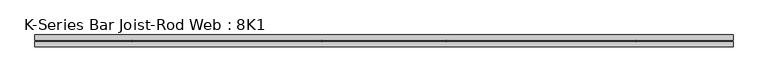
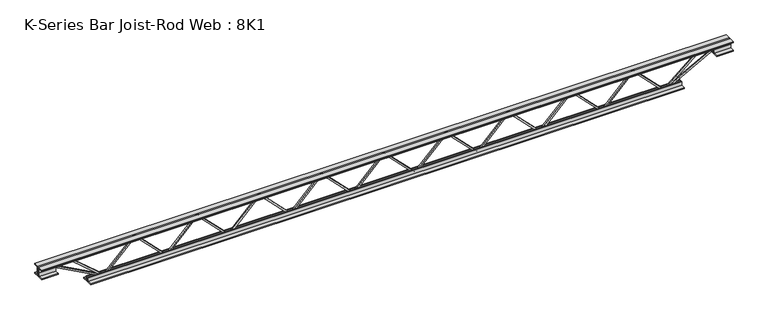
"""IFC4 building model written with IfcOpenShell, lengths in millimetres: beam geometry, K-Series Bar Joist-Rod Web : 8K1."""

from ifc_helpers import new_model, si_unit, frame, origin, place, context, project, spatial, polyline, outline, extrude, source, transform, mapped, element, save


def k_series_bar_joist_rod_web_8k1_facdae25(model_context):
    return source(origin(), model_context, "Body", "SweptSolid", [
        extrude(outline(polyline([(-90.4875, 968.3504289), (-100.0125, 968.3504289), (-100.0125, 973.521642), (90.4875, 1160.8417278), (90.4875, 1163.1993017), (-100.0125, 1350.5193875), (-100.0125, 1355.6906005), (-90.4875, 1355.6906005), (-90.4875, 1354.5118136), (100.0125, 1167.1917278), (100.0125, 1156.8493017), (-90.4875, 969.5292159), (-90.4875, 968.3504289)])), frame((0.0, -4.7625, 0.0), z_axis=(0.0, 1.0, 0.0), x_axis=(0.0, 0.0, 1.0)), (0.0, 0.0, 1.0), 9.525),
        extrude(outline(polyline([(-90.4875, 581.0102574), (-100.0125, 581.0102574), (-100.0125, 586.1814704), (90.4875, 773.5015562), (90.4875, 775.8591301), (-100.0125, 963.1792159), (-100.0125, 968.3504289), (-90.4875, 968.3504289), (-90.4875, 967.171642), (100.0125, 779.8515562), (100.0125, 769.5091301), (-90.4875, 582.1890443), (-90.4875, 581.0102574)])), frame((0.0, -4.7625, 0.0), z_axis=(0.0, 1.0, 0.0), x_axis=(0.0, 0.0, 1.0)), (0.0, 0.0, 1.0), 9.525),
        extrude(outline(polyline([(-90.4875, 193.6700858), (-100.0125, 193.6700858), (-100.0125, 198.8412988), (90.4875, 386.1613846), (90.4875, 388.5189586), (-100.0125, 575.8390443), (-100.0125, 581.0102574), (-90.4875, 581.0102574), (-90.4875, 579.8314704), (100.0125, 392.5113846), (100.0125, 382.1689586), (-90.4875, 194.8488728), (-90.4875, 193.6700858)])), frame((0.0, -4.7625, 0.0), z_axis=(0.0, 1.0, 0.0), x_axis=(0.0, 0.0, 1.0)), (0.0, 0.0, 1.0), 9.525),
        extrude(outline(polyline([(-90.4875, -193.6700858), (-100.0125, -193.6700858), (-100.0125, -188.4988728), (90.4875, -1.178787), (90.4875, 1.178787), (-100.0125, 188.4988728), (-100.0125, 193.6700858), (-90.4875, 193.6700858), (-90.4875, 192.4912988), (100.0125, 5.171213), (100.0125, -5.171213), (-90.4875, -192.4912988), (-90.4875, -193.6700858)])), frame((0.0, -4.7625, 0.0), z_axis=(0.0, 1.0, 0.0), x_axis=(0.0, 0.0, 1.0)), (0.0, 0.0, 1.0), 9.525),
        extrude(outline(polyline([(-90.4875, -581.0102574), (-100.0125, -581.0102574), (-100.0125, -575.8390443), (90.4875, -388.5189586), (90.4875, -386.1613846), (-100.0125, -198.8412988), (-100.0125, -193.6700858), (-90.4875, -193.6700858), (-90.4875, -194.8488728), (100.0125, -382.1689586), (100.0125, -392.5113846), (-90.4875, -579.8314704), (-90.4875, -581.0102574)])), frame((0.0, -4.7625, 0.0), z_axis=(0.0, 1.0, 0.0), x_axis=(0.0, 0.0, 1.0)), (0.0, 0.0, 1.0), 9.525),
        extrude(outline(polyline([(-90.4875, -968.3504289), (-100.0125, -968.3504289), (-100.0125, -963.1792159), (90.4875, -775.8591301), (90.4875, -773.5015562), (-100.0125, -586.1814704), (-100.0125, -581.0102574), (-90.4875, -581.0102574), (-90.4875, -582.1890443), (100.0125, -769.5091301), (100.0125, -779.8515562), (-90.4875, -967.171642), (-90.4875, -968.3504289)])), frame((0.0, -4.7625, 0.0), z_axis=(0.0, 1.0, 0.0), x_axis=(0.0, 0.0, 1.0)), (0.0, 0.0, 1.0), 9.525),
        extrude(outline(polyline([(-90.4875, -1355.6906005), (-100.0125, -1355.6906005), (-100.0125, -1350.5193875), (90.4875, -1163.1993017), (90.4875, -1160.8417278), (-100.0125, -973.521642), (-100.0125, -968.3504289), (-90.4875, -968.3504289), (-90.4875, -969.5292159), (100.0125, -1156.8493017), (100.0125, -1167.1917278), (-90.4875, -1354.5118136), (-90.4875, -1355.6906005)])), frame((0.0, -4.7625, 0.0), z_axis=(0.0, 1.0, 0.0), x_axis=(0.0, 0.0, 1.0)), (0.0, 0.0, 1.0), 9.525),
        extrude(outline(polyline([(-90.4875, 1355.6906005), (-100.0125, 1355.6906005), (-100.0125, 1360.8618136), (90.4875, 1548.1818993), (90.4875, 1550.5394733), (-100.0125, 1737.8595591), (-100.0125, 1743.0307721), (-90.4875, 1743.0307721), (-90.4875, 1741.8519851), (100.0125, 1554.5318993), (100.0125, 1544.1894733), (-90.4875, 1356.8693875), (-90.4875, 1355.6906005)])), frame((0.0, -4.7625, 0.0), z_axis=(0.0, 1.0, 0.0), x_axis=(0.0, 0.0, 1.0)), (0.0, 0.0, 1.0), 9.525),
        extrude(outline(polyline([(-90.4875, -1743.0307721), (-100.0125, -1743.0307721), (-100.0125, -1737.8595591), (90.4875, -1550.5394733), (90.4875, -1548.1818993), (-100.0125, -1360.8618136), (-100.0125, -1355.6906005), (-90.4875, -1355.6906005), (-90.4875, -1356.8693875), (100.0125, -1544.1894733), (100.0125, -1554.5318993), (-90.4875, -1741.8519851), (-90.4875, -1743.0307721)])), frame((0.0, -4.7625, 0.0), z_axis=(0.0, 1.0, 0.0), x_axis=(0.0, 0.0, 1.0)), (0.0, 0.0, 1.0), 9.525),
        extrude(outline(polyline([(4.7625, 101.6), (36.5125, 101.6), (36.5125, 95.25), (11.1125, 95.25), (11.1125, 69.85), (4.7625, 69.85), (4.7625, 101.6)])), frame((-2149.4307721, 0.0, 0.0), z_axis=(1.0, 0.0, 0.0), x_axis=(0.0, 1.0, 0.0)), (0.0, 0.0, 1.0), 4298.8615442),
        extrude(outline(polyline([(-4.7625, 101.6), (-4.7625, 69.85), (-11.1125, 69.85), (-11.1125, 95.25), (-36.5125, 95.25), (-36.5125, 101.6), (-4.7625, 101.6)])), frame((-2149.4307721, 0.0, 0.0), z_axis=(1.0, 0.0, 0.0), x_axis=(0.0, 1.0, 0.0)), (0.0, 0.0, 1.0), 4298.8615442),
        extrude(outline(polyline([(-4.7625, 38.1), (-36.5125, 38.1), (-36.5125, 44.45), (-11.1125, 44.45), (-11.1125, 69.85), (-4.7625, 69.85), (-4.7625, 38.1)])), frame((-2149.4307721, 0.0, 0.0), z_axis=(1.0, 0.0, 0.0), x_axis=(0.0, 1.0, 0.0)), (0.0, 0.0, 1.0), 101.6),
        extrude(outline(polyline([(36.5125, 38.1), (4.7625, 38.1), (4.7625, 69.85), (11.1125, 69.85), (11.1125, 44.45), (36.5125, 44.45), (36.5125, 38.1)])), frame((-2149.4307721, 0.0, 0.0), z_axis=(1.0, 0.0, 0.0), x_axis=(0.0, 1.0, 0.0)), (0.0, 0.0, 1.0), 101.6),
        extrude(outline(polyline([(4.7625, 38.1), (4.7625, 69.85), (11.1125, 69.85), (11.1125, 44.45), (36.5125, 44.45), (36.5125, 38.1), (4.7625, 38.1)])), frame((2047.8307721, 0.0, 0.0), z_axis=(1.0, 0.0, 0.0), x_axis=(0.0, 1.0, 0.0)), (0.0, 0.0, 1.0), 101.6),
        extrude(outline(polyline([(-4.7625, 38.1), (-36.5125, 38.1), (-36.5125, 44.45), (-11.1125, 44.45), (-11.1125, 69.85), (-4.7625, 69.85), (-4.7625, 38.1)])), frame((2047.8307721, 0.0, 0.0), z_axis=(1.0, 0.0, 0.0), x_axis=(0.0, 1.0, 0.0)), (0.0, 0.0, 1.0), 101.6),
        extrude(outline(polyline([(4.7625, -101.6), (4.7625, -69.85), (11.1125, -69.85), (11.1125, -95.25), (36.5125, -95.25), (36.5125, -101.6), (4.7625, -101.6)])), frame((-1844.6307721, 0.0, 0.0), z_axis=(1.0, 0.0, 0.0), x_axis=(0.0, 1.0, 0.0)), (0.0, 0.0, 1.0), 3689.2615442),
        extrude(outline(polyline([(-4.7625, -101.6), (-36.5125, -101.6), (-36.5125, -95.25), (-11.1125, -95.25), (-11.1125, -69.85), (-4.7625, -69.85), (-4.7625, -101.6)])), frame((-1844.6307721, 0.0, 0.0), z_axis=(1.0, 0.0, 0.0), x_axis=(0.0, 1.0, 0.0)), (0.0, 0.0, 1.0), 3689.2615442),
        extrude(outline(polyline([(0.0, -9.525), (0.0, 0.0), (346.6425392, 0.0), (346.6425392, -9.525), (0.0, -9.525)])), frame((-2050.0990706, 4.7625, 65.662372), z_axis=(0.47628314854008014, 0.0, 0.8792919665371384), x_axis=(0.8792919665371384, 0.0, -0.47628314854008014)), (0.0, 0.0, 1.0), 9.525),
        extrude(outline(polyline([(0.0, -9.525), (0.0, 0.0), (254.4918705, 0.0), (254.4918705, -9.525), (0.0, -9.525)])), frame((-1939.7904998, 4.7625, 66.2257043), z_axis=(0.6487437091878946, 0.0, 0.7610069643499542), x_axis=(0.7610069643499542, 0.0, -0.6487437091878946)), (0.0, 0.0, 1.0), 9.525),
        extrude(outline(polyline([(0.0, -9.525), (0.0, 0.0), (346.6425392, 0.0), (346.6425392, -9.525), (0.0, -9.525)])), frame((2050.0990706, -4.7625, 65.662372), z_axis=(-0.476283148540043, 0.0, 0.8792919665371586), x_axis=(-0.8792919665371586, 0.0, -0.476283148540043)), (0.0, 0.0, 1.0), 9.525),
        extrude(outline(polyline([(0.0, -9.525), (0.0, 0.0), (254.4918705, 0.0), (254.4918705, -9.525), (0.0, -9.525)])), frame((1939.7904998, -4.7625, 66.2257043), z_axis=(-0.6487437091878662, 0.0, 0.7610069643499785), x_axis=(-0.7610069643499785, 0.0, -0.6487437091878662)), (0.0, 0.0, 1.0), 9.525),
    ])


if __name__ == "__main__":
    model = new_model("IFC4")
    model_context = context("Model", 3, world=origin())
    ifc_project = project(units=[si_unit("LENGTHUNIT", "METRE", prefix="MILLI")], contexts=[model_context])
    site = spatial("IfcSite", under=ifc_project)
    building = spatial("IfcBuilding", under=site)
    placement = place(None, origin())
    k_series_bar_joist_rod_web_8k1_shape = k_series_bar_joist_rod_web_8k1_facdae25(model_context)
    element("IfcBeam", 1, ObjectType="K-Series Bar Joist-Rod Web : 8K1", at=placement, inside=building, context=model_context, shape_type="MappedRepresentation", body=[
        mapped(k_series_bar_joist_rod_web_8k1_shape, transform((0.0, 0.0, 0.0), x_axis=(1.0, 0.0, 0.0), y_axis=(0.0, 1.0, 0.0), z_axis=(0.0, 0.0, 1.0))),
    ])
    save(model, "model.ifc")
